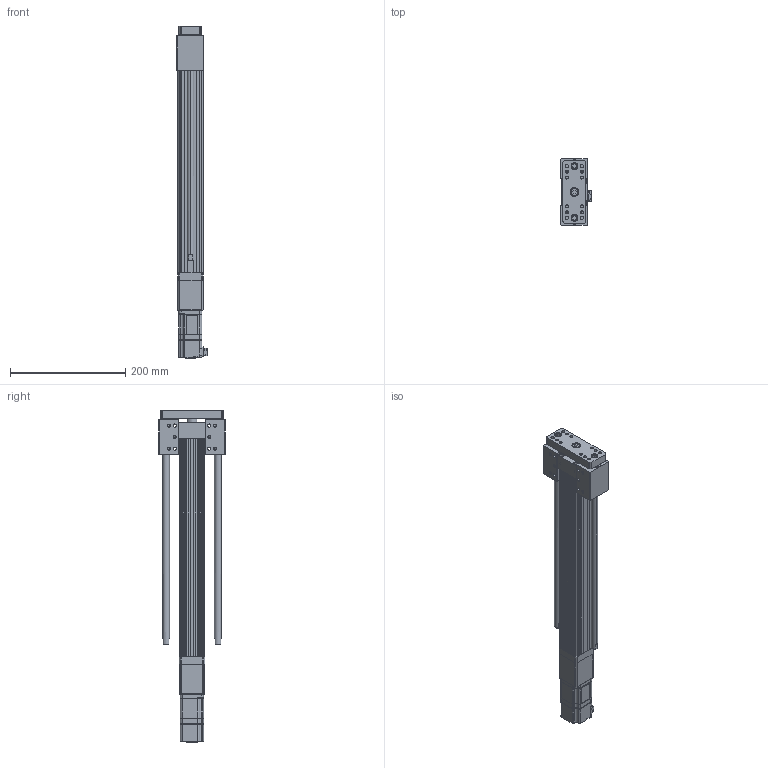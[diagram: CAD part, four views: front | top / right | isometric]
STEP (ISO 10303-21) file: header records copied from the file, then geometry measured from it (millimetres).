
FILE_DESCRIPTION (( 'STEP AP203' ), '1' );
FILE_NAME ('ANS045-HS300-05(10)-W10.STEP', '2019-02-14T03:01:45', ( 'user' ), ( '' ), 'SwSTEP 2.0', 'SolidWorks 2013', '' );
FILE_SCHEMA (( 'CONFIG_CONTROL_DESIGN' ));
Length unit declared in the file: millimetre
Products named in the file (4): ANS045 HS300 VER2; ANS045 ROD ST300 H; SGMJV_01A_A21; ANS045-HS300-05(10)-W10
Assembly tree (3 placements, depth 2):
  ANS045-HS300-05(10)-W10
    ANS045 HS300 VER2
    ANS045 ROD ST300 H
    SGMJV_01A_A21
Bounding box: 52.3 x 115 x 576.1 mm (x, y, z)
Volume: 1060523.5 mm3; surface area: 307778.9 mm2
Topology: 3 solids, 7 shells, 1067 faces, 2681 edges, 1678 vertices
Faces by surface type: plane 542, cylinder 373, cone 150, bspline 2
Entity records: 31939 total; most frequent: CARTESIAN_POINT 5908, DIRECTION 5389, ORIENTED_EDGE 5290, EDGE_CURVE 2645, AXIS2_PLACEMENT_3D 1825, LINE 1739, VECTOR 1739, VERTEX_POINT 1678
